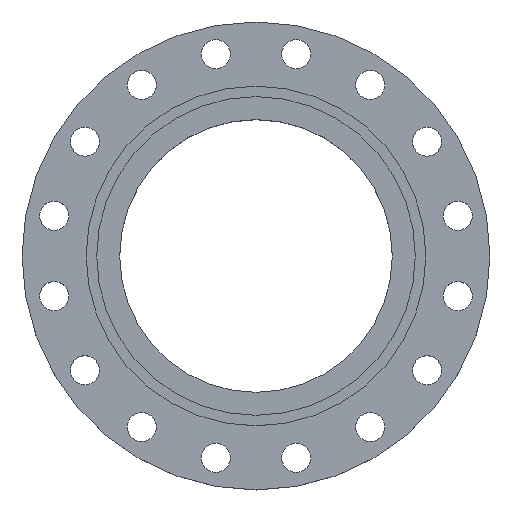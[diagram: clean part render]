
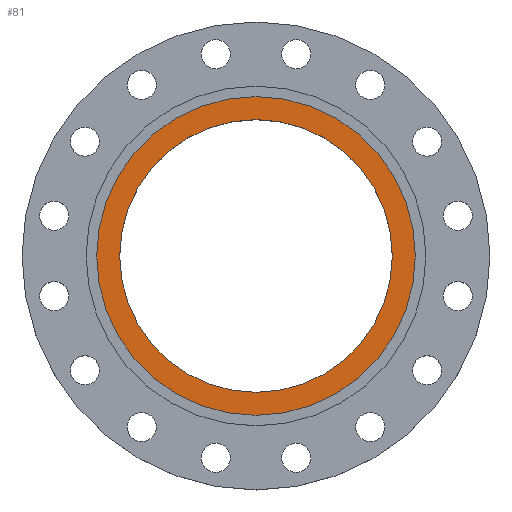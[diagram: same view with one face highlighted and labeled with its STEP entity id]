
A CAD part, top view. The second image highlights one B-rep face of the part: STEP entity #81.
In plain terms, the highlighted planar face has unit normal (0, 0, 1).
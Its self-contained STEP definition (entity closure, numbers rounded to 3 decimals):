
#58 = CIRCLE ( 'NONE', #607, 169. ) ;
#81 = ADVANCED_FACE ( 'NONE', ( #1171, #1170 ), #1169, .T. ) ;
#180 = CARTESIAN_POINT ( 'NONE',  ( -169., 0., -5.5 ) ) ;
#181 = CARTESIAN_POINT ( 'NONE',  ( 169., 0., -5.5 ) ) ;
#209 = CARTESIAN_POINT ( 'NONE',  ( -197.5, 0., -5.5 ) ) ;
#325 = AXIS2_PLACEMENT_3D ( 'NONE', #1168, #1167, #1166 ) ;
#391 = CIRCLE ( 'NONE', #421, 169. ) ;
#421 = AXIS2_PLACEMENT_3D ( 'NONE', #575, #574, #573 ) ;
#452 = DIRECTION ( 'NONE',  ( 1., 0., 0. ) ) ;
#453 = DIRECTION ( 'NONE',  ( 0., 0., -1. ) ) ;
#454 = CARTESIAN_POINT ( 'NONE',  ( 0., 0., -5.5 ) ) ;
#573 = DIRECTION ( 'NONE',  ( 1., 0., 0. ) ) ;
#574 = DIRECTION ( 'NONE',  ( 0., 0., -1. ) ) ;
#575 = CARTESIAN_POINT ( 'NONE',  ( 0., 0., -5.5 ) ) ;
#607 = AXIS2_PLACEMENT_3D ( 'NONE', #454, #453, #452 ) ;
#640 = DIRECTION ( 'NONE',  ( -1., 0., 0. ) ) ;
#644 = DIRECTION ( 'NONE',  ( 0., 0., -1. ) ) ;
#645 = CARTESIAN_POINT ( 'NONE',  ( 0., 0., -5.5 ) ) ;
#741 = DIRECTION ( 'NONE',  ( -1., 0., 0. ) ) ;
#743 = DIRECTION ( 'NONE',  ( 0., 0., -1. ) ) ;
#745 = CARTESIAN_POINT ( 'NONE',  ( 0., 0., -5.5 ) ) ;
#750 = CARTESIAN_POINT ( 'NONE',  ( 197.5, 0., -5.5 ) ) ;
#778 = VERTEX_POINT ( 'NONE', #750 ) ;
#815 = EDGE_CURVE ( 'NONE', #778, #1555, #1038, .T. ) ;
#1038 = CIRCLE ( 'NONE', #1054, 197.5 ) ;
#1054 = AXIS2_PLACEMENT_3D ( 'NONE', #745, #743, #741 ) ;
#1095 = EDGE_CURVE ( 'NONE', #1555, #778, #1694, .T. ) ;
#1166 = DIRECTION ( 'NONE',  ( 1., 0., 0. ) ) ;
#1167 = DIRECTION ( 'NONE',  ( 0., 0., 1. ) ) ;
#1168 = CARTESIAN_POINT ( 'NONE',  ( 197.5, 0., -5.5 ) ) ;
#1169 = PLANE ( 'NONE',  #325 ) ;
#1170 = FACE_OUTER_BOUND ( 'NONE', #1323, .T. ) ;
#1171 = FACE_BOUND ( 'NONE', #1438, .T. ) ;
#1245 = EDGE_CURVE ( 'NONE', #1662, #1653, #391, .T. ) ;
#1323 = EDGE_LOOP ( 'NONE', ( #1603, #1604 ) ) ;
#1369 = EDGE_CURVE ( 'NONE', #1653, #1662, #58, .T. ) ;
#1438 = EDGE_LOOP ( 'NONE', ( #1601, #1602 ) ) ;
#1555 = VERTEX_POINT ( 'NONE', #209 ) ;
#1601 = ORIENTED_EDGE ( 'NONE', *, *, #1245, .T. ) ;
#1602 = ORIENTED_EDGE ( 'NONE', *, *, #1369, .T. ) ;
#1603 = ORIENTED_EDGE ( 'NONE', *, *, #1095, .F. ) ;
#1604 = ORIENTED_EDGE ( 'NONE', *, *, #815, .F. ) ;
#1653 = VERTEX_POINT ( 'NONE', #181 ) ;
#1662 = VERTEX_POINT ( 'NONE', #180 ) ;
#1694 = CIRCLE ( 'NONE', #1699, 197.5 ) ;
#1699 = AXIS2_PLACEMENT_3D ( 'NONE', #645, #644, #640 ) ;
